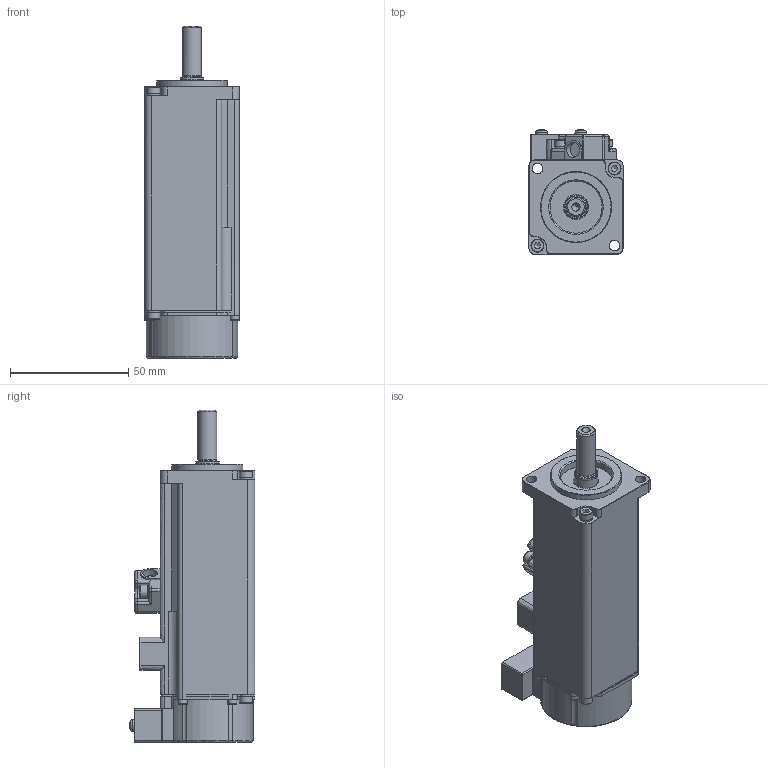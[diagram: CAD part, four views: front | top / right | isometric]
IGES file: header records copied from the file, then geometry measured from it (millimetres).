
Global section: file name: L010B; native system: Autodesk Inventor 2014; preprocessor: unknown; author: Mejust; date: 20160718.142354; units: millimetre
Bounding box: 40 x 53.07 x 140.2 mm (x, y, z)
Volume: 65161.3 mm3; surface area: 44181.6 mm2
Topology: 2 solids, 40 shells, 734 faces, 1847 edges, 1223 vertices
Faces by surface type: bspline 734
